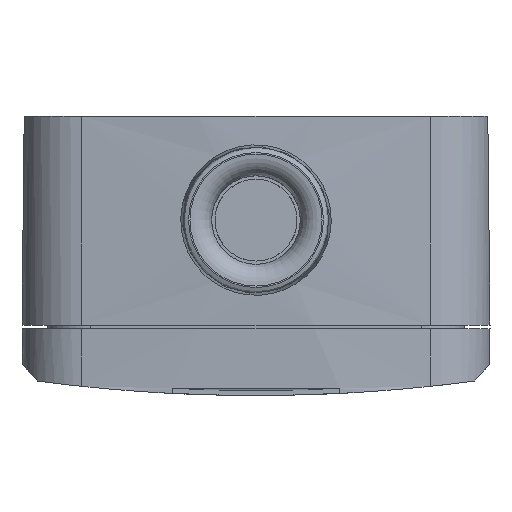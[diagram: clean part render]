
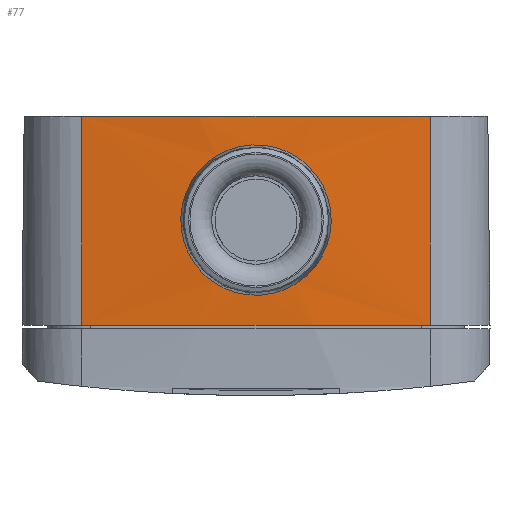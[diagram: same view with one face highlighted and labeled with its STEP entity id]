
A CAD part, front view. The second image highlights one B-rep face of the part: STEP entity #77.
In plain terms, the highlighted cylindrical face has radius 98.5 mm (diameter 197 mm), a partial arc.
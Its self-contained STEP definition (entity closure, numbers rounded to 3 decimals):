
#77 = ADVANCED_FACE( '', ( #1148, #1149 ), #1150, .T. );
#1148 = FACE_BOUND( '', #3382, .T. );
#1149 = FACE_OUTER_BOUND( '', #3383, .T. );
#1150 = CYLINDRICAL_SURFACE( '', #3384, 98.5 );
#3382 = EDGE_LOOP( '', ( #5658 ) );
#3383 = EDGE_LOOP( '', ( #5659, #5660, #5661, #5662 ) );
#3384 = AXIS2_PLACEMENT_3D( '', #5663, #5664, #5665 );
#5658 = ORIENTED_EDGE( '', *, *, #14500, .T. );
#5659 = ORIENTED_EDGE( '', *, *, #14498, .T. );
#5660 = ORIENTED_EDGE( '', *, *, #14501, .T. );
#5661 = ORIENTED_EDGE( '', *, *, #14502, .F. );
#5662 = ORIENTED_EDGE( '', *, *, #14503, .F. );
#5663 = CARTESIAN_POINT( '', ( 0., 103.5, 6.2 ) );
#5664 = DIRECTION( '', ( 0., 0., 1. ) );
#5665 = DIRECTION( '', ( -1., 0., 0. ) );
#14498 = EDGE_CURVE( '', #17382, #17380, #17383, .T. );
#14500 = EDGE_CURVE( '', #17385, #17385, #17386, .T. );
#14501 = EDGE_CURVE( '', #17380, #17387, #17388, .T. );
#14502 = EDGE_CURVE( '', #17389, #17387, #17390, .T. );
#14503 = EDGE_CURVE( '', #17382, #17389, #17391, .T. );
#17380 = VERTEX_POINT( '', #22211 );
#17382 = VERTEX_POINT( '', #22213 );
#17383 = LINE( '', #22214, #22215 );
#17385 = VERTEX_POINT( '', #22217 );
#17386 = B_SPLINE_CURVE_WITH_KNOTS( '', 3, ( #22218, #22219, #22220, #22221, #22222, #22223, #22224, #22225, #22226, #22227, #22228, #22229, #22230, #22231, #22232, #22233, #22234, #22235, #22236, #22237, #22238, #22239, #22240, #22241, #22242, #22243, #22244, #22245, #22246, #22247, #22248, #22249, #22250, #22251, #22252, #22253, #22254, #22255, #22256, #22257, #22258, #22259, #22260, #22261, #22262, #22263, #22264, #22265, #22266, #22267, #22268, #22269, #22270, #22271, #22272, #22273, #22274, #22275, #22276, #22277, #22278, #22279, #22280, #22281, #22282, #22283 ), .UNSPECIFIED., .T., .F., ( 2, 2, 2, 2, 2, 2, 2, 2, 2, 2, 2, 2, 2, 2, 2, 2, 2, 2, 2, 2, 2, 2, 2, 2, 2, 2, 2, 2, 2, 2, 2, 2, 2, 2, 2 ), ( -0.001, 0., 0.001, 0.002, 0.003, 0.004, 0.004, 0.005, 0.006, 0.007, 0.008, 0.009, 0.01, 0.011, 0.011, 0.012, 0.013, 0.014, 0.015, 0.016, 0.017, 0.018, 0.018, 0.019, 0.02, 0.021, 0.022, 0.023, 0.024, 0.025, 0.026, 0.026, 0.027, 0.028, 0.029 ), .UNSPECIFIED. );
#17387 = VERTEX_POINT( '', #22284 );
#17388 = CIRCLE( '', #22285, 98.5 );
#17389 = VERTEX_POINT( '', #22286 );
#17390 = LINE( '', #22287, #22288 );
#17391 = CIRCLE( '', #22289, 98.5 );
#22211 = CARTESIAN_POINT( '', ( -10.423, 5.553, -6.3 ) );
#22213 = CARTESIAN_POINT( '', ( -10.423, 5.553, 6.2 ) );
#22214 = CARTESIAN_POINT( '', ( -10.423, 5.553, 6.2 ) );
#22215 = VECTOR( '', #29562, 1000. );
#22217 = CARTESIAN_POINT( '', ( -3.187, 5.052, -3.179 ) );
#22218 = CARTESIAN_POINT( '', ( -2.977, 5.045, -3.389 ) );
#22219 = CARTESIAN_POINT( '', ( -3.397, 5.058, -2.969 ) );
#22220 = CARTESIAN_POINT( '', ( -3.583, 5.065, -2.741 ) );
#22221 = CARTESIAN_POINT( '', ( -3.909, 5.077, -2.253 ) );
#22222 = CARTESIAN_POINT( '', ( -4.05, 5.083, -1.99 ) );
#22223 = CARTESIAN_POINT( '', ( -4.275, 5.093, -1.445 ) );
#22224 = CARTESIAN_POINT( '', ( -4.36, 5.097, -1.164 ) );
#22225 = CARTESIAN_POINT( '', ( -4.474, 5.102, -0.587 ) );
#22226 = CARTESIAN_POINT( '', ( -4.504, 5.103, -0.288 ) );
#22227 = CARTESIAN_POINT( '', ( -4.503, 5.103, 0.299 ) );
#22228 = CARTESIAN_POINT( '', ( -4.474, 5.102, 0.591 ) );
#22229 = CARTESIAN_POINT( '', ( -4.358, 5.096, 1.172 ) );
#22230 = CARTESIAN_POINT( '', ( -4.271, 5.093, 1.456 ) );
#22231 = CARTESIAN_POINT( '', ( -4.046, 5.083, 1.997 ) );
#22232 = CARTESIAN_POINT( '', ( -3.906, 5.077, 2.258 ) );
#22233 = CARTESIAN_POINT( '', ( -3.576, 5.065, 2.75 ) );
#22234 = CARTESIAN_POINT( '', ( -3.39, 5.058, 2.977 ) );
#22235 = CARTESIAN_POINT( '', ( -2.974, 5.045, 3.391 ) );
#22236 = CARTESIAN_POINT( '', ( -2.742, 5.038, 3.581 ) );
#22237 = CARTESIAN_POINT( '', ( -2.252, 5.025, 3.907 ) );
#22238 = CARTESIAN_POINT( '', ( -1.994, 5.02, 4.045 ) );
#22239 = CARTESIAN_POINT( '', ( -1.449, 5.01, 4.271 ) );
#22240 = CARTESIAN_POINT( '', ( -1.162, 5.006, 4.357 ) );
#22241 = CARTESIAN_POINT( '', ( -0.587, 5.001, 4.471 ) );
#22242 = CARTESIAN_POINT( '', ( -0.295, 5., 4.5 ) );
#22243 = CARTESIAN_POINT( '', ( 0.3, 5., 4.499 ) );
#22244 = CARTESIAN_POINT( '', ( 0.593, 5.001, 4.47 ) );
#22245 = CARTESIAN_POINT( '', ( 1.168, 5.007, 4.355 ) );
#22246 = CARTESIAN_POINT( '', ( 1.454, 5.01, 4.269 ) );
#22247 = CARTESIAN_POINT( '', ( 1.999, 5.02, 4.043 ) );
#22248 = CARTESIAN_POINT( '', ( 2.258, 5.026, 3.904 ) );
#22249 = CARTESIAN_POINT( '', ( 2.747, 5.038, 3.578 ) );
#22250 = CARTESIAN_POINT( '', ( 2.978, 5.045, 3.388 ) );
#22251 = CARTESIAN_POINT( '', ( 3.394, 5.058, 2.972 ) );
#22252 = CARTESIAN_POINT( '', ( 3.58, 5.065, 2.746 ) );
#22253 = CARTESIAN_POINT( '', ( 3.909, 5.077, 2.254 ) );
#22254 = CARTESIAN_POINT( '', ( 4.049, 5.083, 1.992 ) );
#22255 = CARTESIAN_POINT( '', ( 4.273, 5.093, 1.45 ) );
#22256 = CARTESIAN_POINT( '', ( 4.359, 5.096, 1.167 ) );
#22257 = CARTESIAN_POINT( '', ( 4.475, 5.102, 0.585 ) );
#22258 = CARTESIAN_POINT( '', ( 4.503, 5.103, 0.293 ) );
#22259 = CARTESIAN_POINT( '', ( 4.503, 5.103, -0.294 ) );
#22260 = CARTESIAN_POINT( '', ( 4.474, 5.102, -0.592 ) );
#22261 = CARTESIAN_POINT( '', ( 4.358, 5.096, -1.17 ) );
#22262 = CARTESIAN_POINT( '', ( 4.273, 5.093, -1.45 ) );
#22263 = CARTESIAN_POINT( '', ( 4.047, 5.083, -1.995 ) );
#22264 = CARTESIAN_POINT( '', ( 3.906, 5.077, -2.258 ) );
#22265 = CARTESIAN_POINT( '', ( 3.58, 5.065, -2.746 ) );
#22266 = CARTESIAN_POINT( '', ( 3.393, 5.058, -2.973 ) );
#22267 = CARTESIAN_POINT( '', ( 2.973, 5.045, -3.392 ) );
#22268 = CARTESIAN_POINT( '', ( 2.745, 5.038, -3.579 ) );
#22269 = CARTESIAN_POINT( '', ( 2.257, 5.026, -3.905 ) );
#22270 = CARTESIAN_POINT( '', ( 1.994, 5.02, -4.045 ) );
#22271 = CARTESIAN_POINT( '', ( 1.448, 5.01, -4.271 ) );
#22272 = CARTESIAN_POINT( '', ( 1.168, 5.006, -4.356 ) );
#22273 = CARTESIAN_POINT( '', ( 0.591, 5.001, -4.47 ) );
#22274 = CARTESIAN_POINT( '', ( 0.293, 5., -4.5 ) );
#22275 = CARTESIAN_POINT( '', ( -0.295, 5., -4.5 ) );
#22276 = CARTESIAN_POINT( '', ( -0.587, 5.001, -4.471 ) );
#22277 = CARTESIAN_POINT( '', ( -1.167, 5.006, -4.356 ) );
#22278 = CARTESIAN_POINT( '', ( -1.452, 5.01, -4.269 ) );
#22279 = CARTESIAN_POINT( '', ( -1.994, 5.02, -4.045 ) );
#22280 = CARTESIAN_POINT( '', ( -2.254, 5.025, -3.906 ) );
#22281 = CARTESIAN_POINT( '', ( -2.748, 5.038, -3.577 ) );
#22282 = CARTESIAN_POINT( '', ( -2.977, 5.045, -3.389 ) );
#22283 = CARTESIAN_POINT( '', ( -3.397, 5.058, -2.969 ) );
#22284 = CARTESIAN_POINT( '', ( 10.423, 5.553, -6.3 ) );
#22285 = AXIS2_PLACEMENT_3D( '', #29566, #29567, #29568 );
#22286 = CARTESIAN_POINT( '', ( 10.423, 5.553, 6.2 ) );
#22287 = CARTESIAN_POINT( '', ( 10.423, 5.553, 6.2 ) );
#22288 = VECTOR( '', #29569, 1000. );
#22289 = AXIS2_PLACEMENT_3D( '', #29570, #29571, #29572 );
#29562 = DIRECTION( '', ( 0., 0., -1. ) );
#29566 = CARTESIAN_POINT( '', ( 0., 103.5, -6.3 ) );
#29567 = DIRECTION( '', ( 0., 0., 1. ) );
#29568 = DIRECTION( '', ( 1., 0., 0. ) );
#29569 = DIRECTION( '', ( 0., 0., -1. ) );
#29570 = CARTESIAN_POINT( '', ( 0., 103.5, 6.2 ) );
#29571 = DIRECTION( '', ( 0., 0., 1. ) );
#29572 = DIRECTION( '', ( 1., 0., 0. ) );
